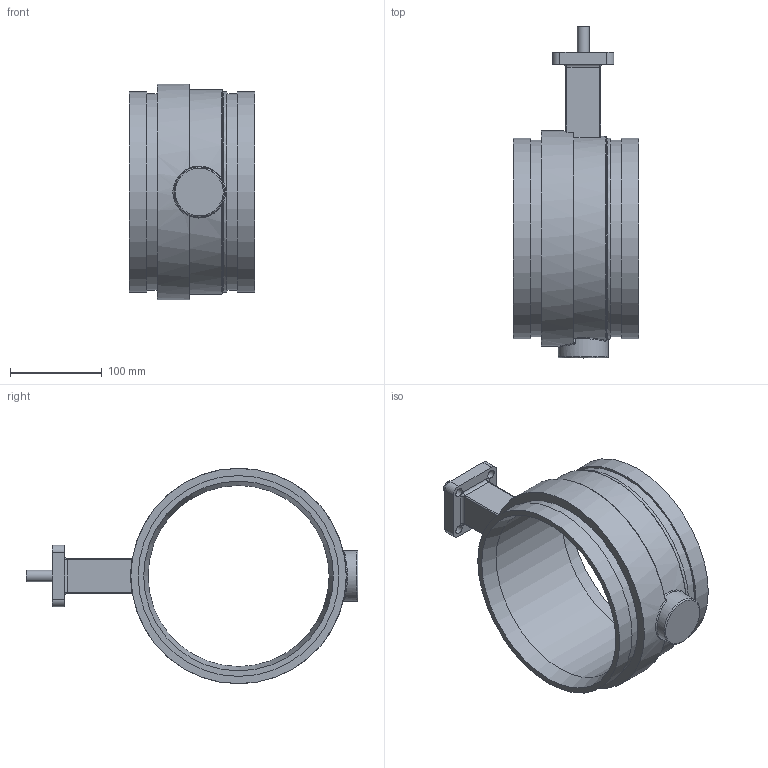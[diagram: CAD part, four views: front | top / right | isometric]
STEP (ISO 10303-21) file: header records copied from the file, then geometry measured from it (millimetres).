
FILE_DESCRIPTION(/* description */ ('Vic Series 461 Vic-300 MasterSeal SS Butterfly Valve','CAx-IF Rec.Pracs.---Representation and Presentation of Product Manufacturing Information (PMI)---4.0---2014-10-13'),/* implementation_level */ '2;1');
FILE_NAME(/* name */ 'C:\Users\kkamble\AppData\Roaming\Autodesk\ApplicationPlugins\Back Up\Victaulic_SS-OGS_Valve Butterfly Vic-300 Masterseal Bare_Series 461 (OGS)\Victaulic_SS-OGS_Valve Butterfly Vic-300 Masterseal Bare_Series 461 (OGS)_8 (200).stp',/* time_stamp */ '2020-09-02T14:48:37+05:00',/* author */ ('mchristi'),/* organization */ ('Victaulic'),/* preprocessor_version */ 'ST-DEVELOPER v17.2',/* originating_system */ 'Autodesk Inventor 2019',/* authorisation */ '');
FILE_SCHEMA (('AP242_MANAGED_MODEL_BASED_3D_ENGINEERING_MIM_LF { 1 0 10303 442 1 1 4 }'));
Length unit declared in the file: inch
Products named in the file (1): 461-08.0
Bounding box: 136.65 x 362.2 x 234.95 mm (x, y, z)
Volume: 1335369.4 mm3; surface area: 233313.2 mm2
Topology: 1 solids, 1 shells, 96 faces, 230 edges, 141 vertices
Faces by surface type: cylinder 37, plane 22, bspline 18, torus 13, sphere 4, cone 2
Full cylindrical faces by diameter (mm): 9.652 x4, 12.7 x1, 54.102 x1, 54.864 x1, 197.612 x1, 214.401 x2, 219.075 x3, 234.95 x1
Entity records: 3612 total; most frequent: CARTESIAN_POINT 1190, DIRECTION 494, ORIENTED_EDGE 456, EDGE_CURVE 228, AXIS2_PLACEMENT_3D 213, VERTEX_POINT 141, CIRCLE 121, EDGE_LOOP 113
